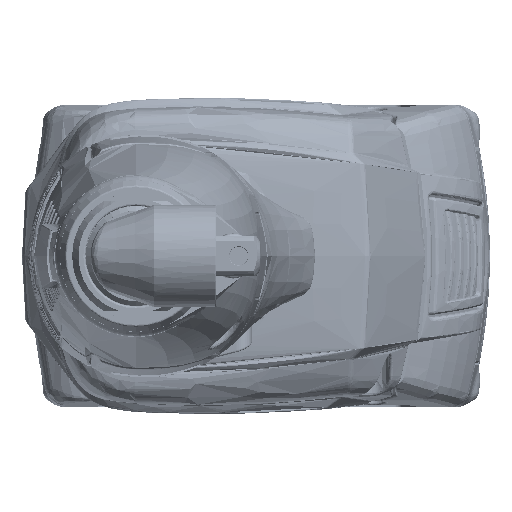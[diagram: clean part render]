
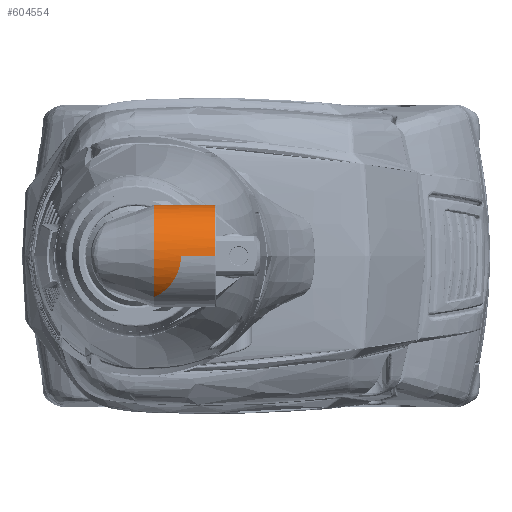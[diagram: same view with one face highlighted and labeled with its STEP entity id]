
A CAD part, left-side view. The second image highlights one B-rep face of the part: STEP entity #604554.
In plain terms, the highlighted cylindrical face has radius 12.5 mm (diameter 25 mm), a partial arc.
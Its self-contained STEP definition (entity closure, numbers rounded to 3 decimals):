
#67715=DIRECTION('',(0.,-1.,0.));
#67716=VECTOR('',#67715,8.3);
#67717=CARTESIAN_POINT('',(-169.48,-11.,0.));
#67718=LINE('',#67717,#67716);
#67730=CARTESIAN_POINT('',(-194.48,-11.,0.));
#67731=CARTESIAN_POINT('',(-194.48,-11.,-0.117));
#67732=CARTESIAN_POINT('',(-194.477,-10.996,
-0.352));
#67733=CARTESIAN_POINT('',(-194.462,-10.979,
-0.704));
#67734=CARTESIAN_POINT('',(-194.437,-10.951,
-1.056));
#67735=CARTESIAN_POINT('',(-194.402,-10.911,
-1.409));
#67736=CARTESIAN_POINT('',(-194.357,-10.86,
-1.762));
#67737=CARTESIAN_POINT('',(-194.302,-10.797,
-2.115));
#67738=CARTESIAN_POINT('',(-194.236,-10.722,
-2.468));
#67739=CARTESIAN_POINT('',(-194.159,-10.634,
-2.822));
#67740=CARTESIAN_POINT('',(-194.072,-10.534,
-3.175));
#67741=CARTESIAN_POINT('',(-193.973,-10.421,
-3.529));
#67742=CARTESIAN_POINT('',(-193.864,-10.294,
-3.883));
#67743=CARTESIAN_POINT('',(-193.742,-10.154,
-4.237));
#67744=CARTESIAN_POINT('',(-193.609,-9.999,
-4.59));
#67745=CARTESIAN_POINT('',(-193.464,-9.83,
-4.942));
#67746=CARTESIAN_POINT('',(-193.306,-9.645,
-5.294));
#67747=CARTESIAN_POINT('',(-193.136,-9.445,
-5.644));
#67748=CARTESIAN_POINT('',(-192.953,-9.228,
-5.991));
#67749=CARTESIAN_POINT('',(-192.757,-8.995,
-6.337));
#67750=CARTESIAN_POINT('',(-192.549,-8.744,
-6.678));
#67751=CARTESIAN_POINT('',(-192.328,-8.476,
-7.016));
#67752=CARTESIAN_POINT('',(-192.095,-8.19,
-7.348));
#67753=CARTESIAN_POINT('',(-191.85,-7.885,
-7.674));
#67754=CARTESIAN_POINT('',(-191.594,-7.562,
-7.992));
#67755=CARTESIAN_POINT('',(-191.328,-7.222,
-8.301));
#67756=CARTESIAN_POINT('',(-191.055,-6.864,
-8.6));
#67757=CARTESIAN_POINT('',(-190.776,-6.491,
-8.885));
#67758=CARTESIAN_POINT('',(-190.494,-6.105,
-9.155));
#67759=CARTESIAN_POINT('',(-190.214,-5.707,
-9.407));
#67760=CARTESIAN_POINT('',(-189.94,-5.306,
-9.64));
#67761=CARTESIAN_POINT('',(-189.677,-4.902,
-9.851));
#67762=CARTESIAN_POINT('',(-189.511,-4.634,
-9.977));
#67763=CARTESIAN_POINT('',(-189.43,-4.5,-10.037));
#67768=DIRECTION('',(0.,-1.,0.));
#67769=VECTOR('',#67768,8.3);
#67770=CARTESIAN_POINT('',(-194.48,-11.,0.));
#67771=LINE('',#67770,#67769);
#67775=CARTESIAN_POINT('',(-181.98,-19.3,0.));
#67776=DIRECTION('',(0.,-1.,0.));
#67777=DIRECTION('',(1.,0.,0.));
#67778=AXIS2_PLACEMENT_3D('',#67775,#67776,#67777);
#67829=CARTESIAN_POINT('',(-181.98,-4.5,0.));
#67830=DIRECTION('',(0.,-1.,0.));
#67831=DIRECTION('',(0.596,0.,0.803));
#67832=AXIS2_PLACEMENT_3D('',#67829,#67830,#67831);
#68111=CARTESIAN_POINT('',(-169.48,-11.,0.));
#68112=CARTESIAN_POINT('',(-169.48,-11.,0.114));
#68113=CARTESIAN_POINT('',(-169.483,-10.996,
0.342));
#68114=CARTESIAN_POINT('',(-169.497,-10.981,
0.683));
#68115=CARTESIAN_POINT('',(-169.521,-10.954,
1.025));
#68116=CARTESIAN_POINT('',(-169.553,-10.917,
1.367));
#68117=CARTESIAN_POINT('',(-169.596,-10.868,
1.709));
#68118=CARTESIAN_POINT('',(-169.648,-10.809,
2.051));
#68119=CARTESIAN_POINT('',(-169.71,-10.738,
2.393));
#68120=CARTESIAN_POINT('',(-169.781,-10.656,
2.736));
#68121=CARTESIAN_POINT('',(-169.863,-10.562,
3.079));
#68122=CARTESIAN_POINT('',(-169.956,-10.456,
3.422));
#68123=CARTESIAN_POINT('',(-170.059,-10.338,
3.765));
#68124=CARTESIAN_POINT('',(-170.172,-10.206,
4.108));
#68125=CARTESIAN_POINT('',(-170.297,-10.062,
4.451));
#68126=CARTESIAN_POINT('',(-170.433,-9.903,
4.793));
#68127=CARTESIAN_POINT('',(-170.581,-9.731,
5.134));
#68128=CARTESIAN_POINT('',(-170.74,-9.544,
5.474));
#68129=CARTESIAN_POINT('',(-170.911,-9.342,
5.812));
#68130=CARTESIAN_POINT('',(-171.094,-9.125,
6.148));
#68131=CARTESIAN_POINT('',(-171.289,-8.891,
6.481));
#68132=CARTESIAN_POINT('',(-171.496,-8.642,
6.81));
#68133=CARTESIAN_POINT('',(-171.714,-8.375,
7.136));
#68134=CARTESIAN_POINT('',(-171.944,-8.092,
7.456));
#68135=CARTESIAN_POINT('',(-172.185,-7.791,
7.769));
#68136=CARTESIAN_POINT('',(-172.436,-7.474,
8.075));
#68137=CARTESIAN_POINT('',(-172.695,-7.14,
8.372));
#68138=CARTESIAN_POINT('',(-172.961,-6.79,
8.658));
#68139=CARTESIAN_POINT('',(-173.232,-6.426,
8.932));
#68140=CARTESIAN_POINT('',(-173.505,-6.05,
9.19));
#68141=CARTESIAN_POINT('',(-173.775,-5.665,
9.432));
#68142=CARTESIAN_POINT('',(-174.039,-5.275,
9.656));
#68143=CARTESIAN_POINT('',(-174.294,-4.885,
9.859));
#68144=CARTESIAN_POINT('',(-174.453,-4.628,
9.98));
#68145=CARTESIAN_POINT('',(-174.53,-4.5,10.037));
#487145=CARTESIAN_POINT('',(-169.48,-11.,0.));
#487146=VERTEX_POINT('',#487145);
#487147=VERTEX_POINT('',#68145);
#487149=VERTEX_POINT('',#67730);
#487150=VERTEX_POINT('',#67763);
#487263=CARTESIAN_POINT('',(-169.48,-19.3,0.));
#487264=CARTESIAN_POINT('',(-194.48,-19.3,0.));
#487265=VERTEX_POINT('',#487263);
#487266=VERTEX_POINT('',#487264);
#604539=CARTESIAN_POINT('',(-181.98,-20.633,0.));
#604540=DIRECTION('',(0.,1.,0.));
#604541=DIRECTION('',(1.,0.,0.));
#604542=AXIS2_PLACEMENT_3D('',#604539,#604540,#604541);
#604543=CYLINDRICAL_SURFACE('',#604542,12.5);
#604544=ORIENTED_EDGE('',*,*,#604464,.T.);
#604545=ORIENTED_EDGE('',*,*,#604522,.F.);
#604546=ORIENTED_EDGE('',*,*,#604520,.T.);
#604548=ORIENTED_EDGE('',*,*,#604547,.F.);
#604550=ORIENTED_EDGE('',*,*,#604549,.F.);
#604551=ORIENTED_EDGE('',*,*,#604514,.T.);
#604552=EDGE_LOOP('',(#604544,#604545,#604546,#604548,#604550,#604551));
#604553=FACE_OUTER_BOUND('',#604552,.F.);
#604554=ADVANCED_FACE('',(#604553),#604543,.T.);
#67764=B_SPLINE_CURVE_WITH_KNOTS('',3,(#67730,#67731,#67732,#67733,#67734,
#67735,#67736,#67737,#67738,#67739,#67740,#67741,#67742,#67743,#67744,#67745,
#67746,#67747,#67748,#67749,#67750,#67751,#67752,#67753,#67754,#67755,#67756,
#67757,#67758,#67759,#67760,#67761,#67762,#67763),.UNSPECIFIED.,.F.,.F.,(4,1,1,
1,1,1,1,1,1,1,1,1,1,1,1,1,1,1,1,1,1,1,1,1,1,1,1,1,1,1,1,4),(0.,
0.032,0.065,0.097,0.129,
0.161,0.194,0.226,0.258,
0.29,0.323,0.355,0.387,
0.419,0.452,0.484,0.516,
0.548,0.581,0.613,0.645,
0.677,0.71,0.742,0.774,
0.806,0.839,0.871,0.903,
0.935,0.968,1.),.UNSPECIFIED.);
#67779=CIRCLE('',#67778,12.5);
#67833=CIRCLE('',#67832,12.5);
#68146=B_SPLINE_CURVE_WITH_KNOTS('',3,(#68111,#68112,#68113,#68114,#68115,
#68116,#68117,#68118,#68119,#68120,#68121,#68122,#68123,#68124,#68125,#68126,
#68127,#68128,#68129,#68130,#68131,#68132,#68133,#68134,#68135,#68136,#68137,
#68138,#68139,#68140,#68141,#68142,#68143,#68144,#68145),.UNSPECIFIED.,.F.,.F.,(
4,1,1,1,1,1,1,1,1,1,1,1,1,1,1,1,1,1,1,1,1,1,1,1,1,1,1,1,1,1,1,1,4),(0.,
0.031,0.063,0.094,0.125,0.156,0.188,0.219,0.25,0.281,
0.313,0.344,0.375,0.406,0.438,0.469,0.5,0.531,
0.563,0.594,0.625,0.656,0.688,0.719,0.75,0.781,
0.813,0.844,0.875,0.906,0.938,0.969,1.),.UNSPECIFIED.);
#604464=EDGE_CURVE('',#487265,#487266,#67779,.T.);
#604514=EDGE_CURVE('',#487146,#487265,#67718,.T.);
#604520=EDGE_CURVE('',#487149,#487150,#67764,.T.);
#604522=EDGE_CURVE('',#487149,#487266,#67771,.T.);
#604547=EDGE_CURVE('',#487147,#487150,#67833,.T.);
#604549=EDGE_CURVE('',#487146,#487147,#68146,.T.);
